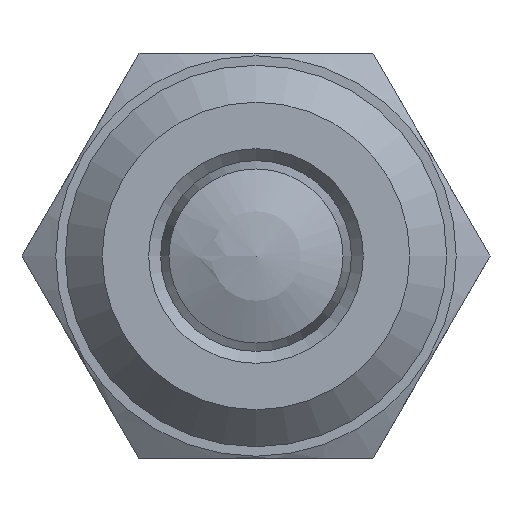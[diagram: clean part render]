
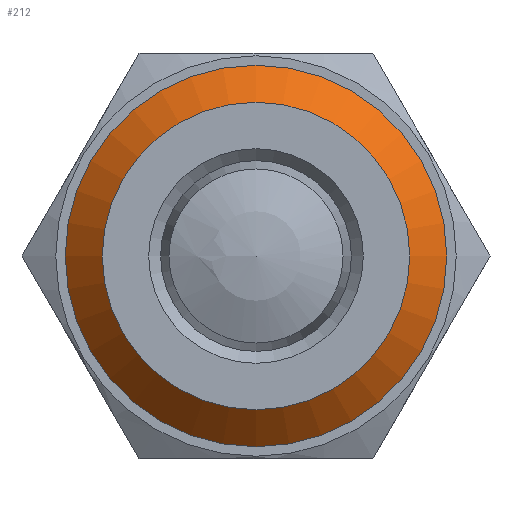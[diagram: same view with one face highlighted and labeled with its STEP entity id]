
A CAD part, front view. The second image highlights one B-rep face of the part: STEP entity #212.
In plain terms, the highlighted conical face has half-angle 45 degrees and reference radius 8 mm.
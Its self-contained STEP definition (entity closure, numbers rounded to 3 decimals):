
#212 = ADVANCED_FACE( '', ( #255, #256 ), #257, .T. );
#255 = FACE_BOUND( '', #348, .T. );
#256 = FACE_OUTER_BOUND( '', #349, .T. );
#257 = CONICAL_SURFACE( '', #350, 8., 0.785 );
#348 = EDGE_LOOP( '', ( #469 ) );
#349 = EDGE_LOOP( '', ( #470 ) );
#350 = AXIS2_PLACEMENT_3D( '', #471, #472, #473 );
#469 = ORIENTED_EDGE( '', *, *, #630, .F. );
#470 = ORIENTED_EDGE( '', *, *, #631, .T. );
#471 = CARTESIAN_POINT( '', ( 0., 1.55, 0. ) );
#472 = DIRECTION( '', ( 0., 1., 0. ) );
#473 = DIRECTION( '', ( -1., 0., 0. ) );
#630 = EDGE_CURVE( '', #688, #688, #689, .T. );
#631 = EDGE_CURVE( '', #690, #690, #691, .T. );
#688 = VERTEX_POINT( '', #878 );
#689 = CIRCLE( '', #879, 6.45 );
#690 = VERTEX_POINT( '', #880 );
#691 = CIRCLE( '', #881, 8. );
#878 = CARTESIAN_POINT( '', ( 6.45, 0., 0. ) );
#879 = AXIS2_PLACEMENT_3D( '', #958, #959, #960 );
#880 = CARTESIAN_POINT( '', ( 8., 1.55, 0. ) );
#881 = AXIS2_PLACEMENT_3D( '', #961, #962, #963 );
#958 = CARTESIAN_POINT( '', ( 0., 0., 0. ) );
#959 = DIRECTION( '', ( 0., -1., 0. ) );
#960 = DIRECTION( '', ( 1., 0., 0. ) );
#961 = CARTESIAN_POINT( '', ( 0., 1.55, 0. ) );
#962 = DIRECTION( '', ( 0., -1., 0. ) );
#963 = DIRECTION( '', ( 1., 0., 0. ) );
